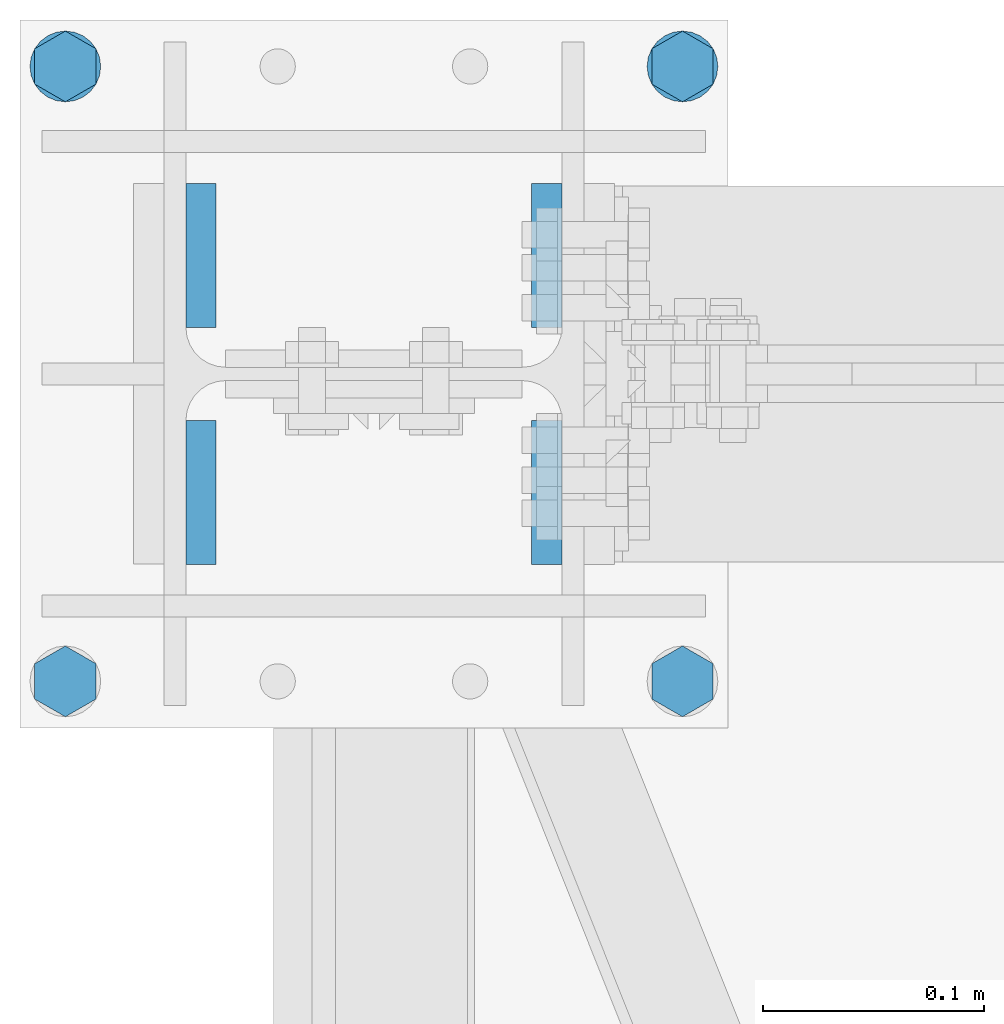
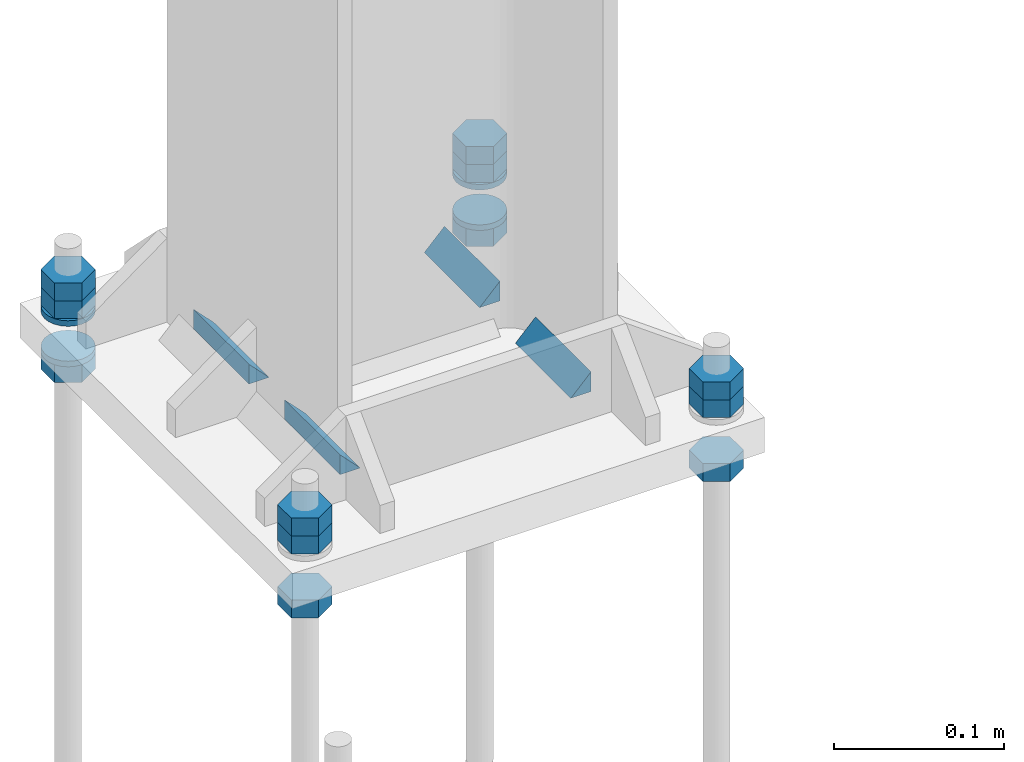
# One storey, part 190 of 251: 16 mechanical fasteners, 8 fasteners.
"""IFC4 building model written with IfcOpenShell, lengths in metres."""

from ifc_helpers import new_model, si_unit, frame, origin_with_axes, place, context, project, spatial, polyline, outline, extrude, type_object, element, save


model = new_model("IFC4")

# Units and contexts
model_context = context("Model", 3, precision=1e-05, world=origin_with_axes())
ifc_project = project(units=[si_unit("LENGTHUNIT", "METRE"), si_unit("AREAUNIT", "SQUARE_METRE"), si_unit("VOLUMEUNIT", "CUBIC_METRE"), si_unit("MASSUNIT", "GRAM", prefix="KILO"), si_unit("TIMEUNIT", "SECOND"), si_unit("PLANEANGLEUNIT", "RADIAN"), si_unit("SOLIDANGLEUNIT", "STERADIAN"), si_unit("THERMODYNAMICTEMPERATUREUNIT", "DEGREE_CELSIUS")], contexts=[model_context])

# Site, building, storey
placement_1 = place(None, origin_with_axes())
site = spatial("IfcSite", under=ifc_project, at=placement_1, Name="Italia", CompositionType="ELEMENT")
building = spatial("IfcBuilding", under=site, at=placement_1, Name="Deposito", CompositionType="ELEMENT")
storey = spatial("IfcBuildingStorey", under=building, at=placement_1, Name="Storey 0", CompositionType="ELEMENT", Elevation=0.0)

# Fasteners
fastener_type_1 = type_object("IfcFastenerType", Name="Collegamenti 0014_-001 0016_-054 0018_-056 0032_-002 0033_-058 0047_-003 0048_-060 0062_-004 0063_-005 0079_-008", PredefinedType="WELD")
placement_2 = place(placement_1, origin_with_axes())
fastener_1_placement = place(placement_2, origin_with_axes())
element("IfcFastener", 1, at=fastener_1_placement, inside=storey, type_object=fastener_type_1, Name="Collegamenti 0014_-001 0016_-054 0018_-056 0032_-002 0033_-058 0047_-003 0048_-060 0062_-004 0063_-005 0079_-008", context=model_context, shape_type="SweptSolid", body=[
    extrude(outline(polyline([(0.0, 0.0), (0.0137482, 0.0141734), (0.0137482, 0.0), (0.0, 0.0)])), frame((5.9787, 20.021, 0.07495), z_axis=(0.0, 1.0, 0.0), x_axis=(-1.0, 0.0, 0.0)), (0.0, 0.0, 1.0), 0.0650997),
])
fastener_type_2 = type_object("IfcFastenerType", Name="Collegamenti 0014_-001 0016_-054 0018_-056 0032_-002 0033_-058 0047_-003 0048_-060 0062_-004 0063_-005 0079_-008", PredefinedType="WELD")
fastener_2_placement = place(placement_2, origin_with_axes())
element("IfcFastener", 2, at=fastener_2_placement, inside=storey, type_object=fastener_type_2, Name="Collegamenti 0014_-001 0016_-054 0018_-056 0032_-002 0033_-058 0047_-003 0048_-060 0062_-004 0063_-005 0079_-008", context=model_context, shape_type="SweptSolid", body=[
    extrude(outline(polyline([(0.0, 0.0), (0.0137482, 0.0141734), (0.0137482, 0.0), (0.0, 0.0)])), frame((6.1213, 20.0861, 0.07495), z_axis=(0.0, -1.0, 0.0), x_axis=(1.0, 0.0, 0.0)), (0.0, 0.0, 1.0), 0.0650997),
])
fastener_type_3 = type_object("IfcFastenerType", Name="Collegamenti 0014_-001 0016_-054 0018_-056 0032_-002 0033_-058 0047_-003 0048_-060 0062_-004 0063_-005 0079_-008", PredefinedType="WELD")
fastener_3_placement = place(placement_2, origin_with_axes())
element("IfcFastener", 3, at=fastener_3_placement, inside=storey, type_object=fastener_type_3, Name="Collegamenti 0014_-001 0016_-054 0018_-056 0032_-002 0033_-058 0047_-003 0048_-060 0062_-004 0063_-005 0079_-008", context=model_context, shape_type="SweptSolid", body=[
    extrude(outline(polyline([(0.0, 0.0), (0.0137482, 0.0141734), (0.0137482, 0.0), (0.0, 0.0)])), frame((6.1213, 19.979, 0.07495), z_axis=(0.0, -1.0, 0.0), x_axis=(1.0, 0.0, 0.0)), (0.0, 0.0, 1.0), 0.0650997),
])
fastener_type_4 = type_object("IfcFastenerType", Name="Collegamenti 0014_-001 0016_-054 0018_-056 0032_-002 0033_-058 0047_-003 0048_-060 0062_-004 0063_-005 0079_-008", PredefinedType="WELD")
fastener_4_placement = place(placement_2, origin_with_axes())
element("IfcFastener", 4, at=fastener_4_placement, inside=storey, type_object=fastener_type_4, Name="Collegamenti 0014_-001 0016_-054 0018_-056 0032_-002 0033_-058 0047_-003 0048_-060 0062_-004 0063_-005 0079_-008", context=model_context, shape_type="SweptSolid", body=[
    extrude(outline(polyline([(0.0, 0.0), (0.0137482, 0.0141734), (0.0137482, 0.0), (0.0, 0.0)])), frame((5.9787, 19.9139, 0.07495), z_axis=(0.0, 1.0, 0.0), x_axis=(-1.0, 0.0, 0.0)), (0.0, 0.0, 1.0), 0.0650997),
])
fastener_type_5 = type_object("IfcFastenerType", Name="Collegamenti 0014_-001 0016_-054 0018_-056 0032_-002 0033_-058 0047_-003 0048_-060 0062_-004 0063_-005 0079_-008", PredefinedType="WELD")
fastener_5_placement = place(placement_2, origin_with_axes())
element("IfcFastener", 5, at=fastener_5_placement, inside=storey, type_object=fastener_type_5, Name="Collegamenti 0014_-001 0016_-054 0018_-056 0032_-002 0033_-058 0047_-003 0048_-060 0062_-004 0063_-005 0079_-008", context=model_context, shape_type="SweptSolid", body=[
    extrude(outline(polyline([(0.0, 0.0), (0.0137482, 0.0141734), (0.0137482, 0.0), (0.0, 0.0)])), frame((5.9787, 20.021, 0.07495), z_axis=(0.0, 1.0, 0.0), x_axis=(-1.0, 0.0, 0.0)), (0.0, 0.0, 1.0), 0.0650997),
])
fastener_type_6 = type_object("IfcFastenerType", Name="Collegamenti 0014_-001 0016_-054 0018_-056 0032_-002 0033_-058 0047_-003 0048_-060 0062_-004 0063_-005 0079_-008", PredefinedType="WELD")
fastener_6_placement = place(placement_2, origin_with_axes())
element("IfcFastener", 6, at=fastener_6_placement, inside=storey, type_object=fastener_type_6, Name="Collegamenti 0014_-001 0016_-054 0018_-056 0032_-002 0033_-058 0047_-003 0048_-060 0062_-004 0063_-005 0079_-008", context=model_context, shape_type="SweptSolid", body=[
    extrude(outline(polyline([(0.0, 0.0), (0.0137482, 0.0141734), (0.0137482, 0.0), (0.0, 0.0)])), frame((6.1213, 20.0861, 0.07495), z_axis=(0.0, -1.0, 0.0), x_axis=(1.0, 0.0, 0.0)), (0.0, 0.0, 1.0), 0.0650997),
])
fastener_type_7 = type_object("IfcFastenerType", Name="Collegamenti 0014_-001 0016_-054 0018_-056 0032_-002 0033_-058 0047_-003 0048_-060 0062_-004 0063_-005 0079_-008", PredefinedType="WELD")
fastener_7_placement = place(placement_2, origin_with_axes())
element("IfcFastener", 7, at=fastener_7_placement, inside=storey, type_object=fastener_type_7, Name="Collegamenti 0014_-001 0016_-054 0018_-056 0032_-002 0033_-058 0047_-003 0048_-060 0062_-004 0063_-005 0079_-008", context=model_context, shape_type="SweptSolid", body=[
    extrude(outline(polyline([(0.0, 0.0), (0.0137482, 0.0141734), (0.0137482, 0.0), (0.0, 0.0)])), frame((6.1213, 19.979, 0.07495), z_axis=(0.0, -1.0, 0.0), x_axis=(1.0, 0.0, 0.0)), (0.0, 0.0, 1.0), 0.0650997),
])
fastener_type_8 = type_object("IfcFastenerType", Name="Collegamenti 0014_-001 0016_-054 0018_-056 0032_-002 0033_-058 0047_-003 0048_-060 0062_-004 0063_-005 0079_-008", PredefinedType="WELD")
fastener_8_placement = place(placement_2, origin_with_axes())
element("IfcFastener", 8, at=fastener_8_placement, inside=storey, type_object=fastener_type_8, Name="Collegamenti 0014_-001 0016_-054 0018_-056 0032_-002 0033_-058 0047_-003 0048_-060 0062_-004 0063_-005 0079_-008", context=model_context, shape_type="SweptSolid", body=[
    extrude(outline(polyline([(0.0, 0.0), (0.0137482, 0.0141734), (0.0137482, 0.0), (0.0, 0.0)])), frame((5.9787, 19.9139, 0.07495), z_axis=(0.0, 1.0, 0.0), x_axis=(-1.0, 0.0, 0.0)), (0.0, 0.0, 1.0), 0.0650997),
])

# Mechanical fasteners
mechanical_fastener_type_1 = type_object("IfcMechanicalFastenerType", Name="Collegamenti 0014_-001 0016_-054 0018_-056 0032_-002 0033_-058 0047_-003 0048_-060 0062_-004 0063_-005 0079_-008", PredefinedType="BOLT")
mechanical_fastener_1_placement = place(placement_2, origin_with_axes())
element("IfcMechanicalFastener", 9, at=mechanical_fastener_1_placement, inside=storey, type_object=mechanical_fastener_type_1, Name="Collegamenti 0014_-001 0016_-054 0018_-056 0032_-002 0033_-058 0047_-003 0048_-060 0062_-004 0063_-005 0079_-008", NominalDiameter=0.0159988, context=model_context, shape_type="SweptSolid", body=[
    extrude(outline(polyline([(0.0, 0.0), (-0.0159988, 0.0), (-0.0240002, 0.0138569), (-0.0159988, 0.0277138), (0.0, 0.0277138), (0.00800133, 0.0138569), (0.0, 0.0)])), frame((6.20336, 19.869, 0.079), z_axis=(0.0, 0.0, 1.0), x_axis=(0.0, 1.0, 0.0)), (0.0, 0.0, 1.0), 0.0128),
])
mechanical_fastener_type_2 = type_object("IfcMechanicalFastenerType", Name="Collegamenti 0014_-001 0016_-054 0018_-056 0032_-002 0033_-058 0047_-003 0048_-060 0062_-004 0063_-005 0079_-008", PredefinedType="BOLT")
mechanical_fastener_2_placement = place(placement_2, origin_with_axes())
element("IfcMechanicalFastener", 10, at=mechanical_fastener_2_placement, inside=storey, type_object=mechanical_fastener_type_2, Name="Collegamenti 0014_-001 0016_-054 0018_-056 0032_-002 0033_-058 0047_-003 0048_-060 0062_-004 0063_-005 0079_-008", NominalDiameter=0.0159988, context=model_context, shape_type="SweptSolid", body=[
    extrude(outline(polyline([(0.0, 0.0), (-0.0159988, 0.0), (-0.0240002, 0.0138569), (-0.0159988, 0.0277138), (0.0, 0.0277138), (0.00800133, 0.0138569), (0.0, 0.0)])), frame((6.20336, 19.869, 0.0918), z_axis=(0.0, 0.0, 1.0), x_axis=(0.0, 1.0, 0.0)), (0.0, 0.0, 1.0), 0.0128),
])
mechanical_fastener_type_3 = type_object("IfcMechanicalFastenerType", Name="Collegamenti 0014_-001 0016_-054 0018_-056 0032_-002 0033_-058 0047_-003 0048_-060 0062_-004 0063_-005 0079_-008", PredefinedType="BOLT")
mechanical_fastener_3_placement = place(placement_2, origin_with_axes())
element("IfcMechanicalFastener", 11, at=mechanical_fastener_3_placement, inside=storey, type_object=mechanical_fastener_type_3, Name="Collegamenti 0014_-001 0016_-054 0018_-056 0032_-002 0033_-058 0047_-003 0048_-060 0062_-004 0063_-005 0079_-008", NominalDiameter=0.0159988, context=model_context, shape_type="SweptSolid", body=[
    extrude(outline(polyline([(0.0, 0.0), (-0.0159988, 0.0), (-0.0240002, 0.0138569), (-0.0159988, 0.0277138), (0.0, 0.0277138), (0.00800133, 0.0138569), (0.0, 0.0)])), frame((6.20336, 19.869, 0.0332), z_axis=(0.0, 0.0, 1.0), x_axis=(0.0, 1.0, 0.0)), (0.0, 0.0, 1.0), 0.0128),
])
mechanical_fastener_type_4 = type_object("IfcMechanicalFastenerType", Name="Collegamenti 0014_-001 0016_-054 0018_-056 0032_-002 0033_-058 0047_-003 0048_-060 0062_-004 0063_-005 0079_-008", PredefinedType="BOLT")
mechanical_fastener_4_placement = place(placement_2, origin_with_axes())
element("IfcMechanicalFastener", 12, at=mechanical_fastener_4_placement, inside=storey, type_object=mechanical_fastener_type_4, Name="Collegamenti 0014_-001 0016_-054 0018_-056 0032_-002 0033_-058 0047_-003 0048_-060 0062_-004 0063_-005 0079_-008", NominalDiameter=0.0159988, context=model_context, shape_type="SweptSolid", body=[
    extrude(outline(polyline([(0.0, 0.0), (-0.0159988, 0.0), (-0.0240002, 0.0138569), (-0.0159988, 0.0277138), (0.0, 0.0277138), (0.00800133, 0.0138569), (0.0, 0.0)])), frame((6.20336, 20.147, 0.079), z_axis=(0.0, 0.0, 1.0), x_axis=(0.0, 1.0, 0.0)), (0.0, 0.0, 1.0), 0.0128),
])
mechanical_fastener_type_5 = type_object("IfcMechanicalFastenerType", Name="Collegamenti 0014_-001 0016_-054 0018_-056 0032_-002 0033_-058 0047_-003 0048_-060 0062_-004 0063_-005 0079_-008", PredefinedType="BOLT")
mechanical_fastener_5_placement = place(placement_2, origin_with_axes())
element("IfcMechanicalFastener", 13, at=mechanical_fastener_5_placement, inside=storey, type_object=mechanical_fastener_type_5, Name="Collegamenti 0014_-001 0016_-054 0018_-056 0032_-002 0033_-058 0047_-003 0048_-060 0062_-004 0063_-005 0079_-008", NominalDiameter=0.0159988, context=model_context, shape_type="SweptSolid", body=[
    extrude(outline(polyline([(0.0, 0.0), (-0.0159988, 0.0), (-0.0240002, 0.0138569), (-0.0159988, 0.0277138), (0.0, 0.0277138), (0.00800133, 0.0138569), (0.0, 0.0)])), frame((6.20336, 20.147, 0.0918), z_axis=(0.0, 0.0, 1.0), x_axis=(0.0, 1.0, 0.0)), (0.0, 0.0, 1.0), 0.0128),
])
mechanical_fastener_type_6 = type_object("IfcMechanicalFastenerType", Name="Collegamenti 0014_-001 0016_-054 0018_-056 0032_-002 0033_-058 0047_-003 0048_-060 0062_-004 0063_-005 0079_-008", PredefinedType="BOLT")
mechanical_fastener_6_placement = place(placement_2, origin_with_axes())
element("IfcMechanicalFastener", 14, at=mechanical_fastener_6_placement, inside=storey, type_object=mechanical_fastener_type_6, Name="Collegamenti 0014_-001 0016_-054 0018_-056 0032_-002 0033_-058 0047_-003 0048_-060 0062_-004 0063_-005 0079_-008", NominalDiameter=0.0159988, context=model_context, shape_type="SweptSolid", body=[
    extrude(outline(polyline([(0.0, 0.0), (-0.0159988, 0.0), (-0.0240002, 0.0138569), (-0.0159988, 0.0277138), (0.0, 0.0277138), (0.00800133, 0.0138569), (0.0, 0.0)])), frame((6.20336, 20.147, 0.0332), z_axis=(0.0, 0.0, 1.0), x_axis=(0.0, 1.0, 0.0)), (0.0, 0.0, 1.0), 0.0128),
])
mechanical_fastener_type_7 = type_object("IfcMechanicalFastenerType", Name="Collegamenti 0014_-001 0016_-054 0018_-056 0032_-002 0033_-058 0047_-003 0048_-060 0062_-004 0063_-005 0079_-008", PredefinedType="BOLT")
mechanical_fastener_7_placement = place(placement_2, origin_with_axes())
element("IfcMechanicalFastener", 15, at=mechanical_fastener_7_placement, inside=storey, type_object=mechanical_fastener_type_7, Name="Collegamenti 0014_-001 0016_-054 0018_-056 0032_-002 0033_-058 0047_-003 0048_-060 0062_-004 0063_-005 0079_-008", NominalDiameter=0.032, context=model_context, shape_type="SweptSolid", body=[
    extrude(outline(polyline([(0.0, 0.0), (-0.000545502, -0.00414133), (-0.00214386, -0.0079999), (-0.00468636, -0.0113139), (-0.00800133, -0.0138564), (-0.0118599, -0.0154548), (-0.0160007, -0.0159998), (-0.0201416, -0.0154548), (-0.0240002, -0.0138564), (-0.0273151, -0.0113139), (-0.0298576, -0.0079999), (-0.031456, -0.00414133), (-0.0320015, 0.0), (-0.031456, 0.00414133), (-0.0298576, 0.0079999), (-0.0273151, 0.0113139), (-0.0240002, 0.0138564), (-0.0201416, 0.0154548), (-0.0160007, 0.0159998), (-0.0118599, 0.0154548), (-0.00800133, 0.0138564), (-0.00468636, 0.0113139), (-0.00214386, 0.0079999), (-0.000545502, 0.00414133), (0.0, 0.0)])), frame((6.1895, 20.155, 0.075), z_axis=(0.0, 0.0, 1.0), x_axis=(0.0, 1.0, 0.0)), (0.0, 0.0, 1.0), 0.00399999),
])
mechanical_fastener_type_8 = type_object("IfcMechanicalFastenerType", Name="Collegamenti 0014_-001 0016_-054 0018_-056 0032_-002 0033_-058 0047_-003 0048_-060 0062_-004 0063_-005 0079_-008", PredefinedType="BOLT")
mechanical_fastener_8_placement = place(placement_2, origin_with_axes())
element("IfcMechanicalFastener", 16, at=mechanical_fastener_8_placement, inside=storey, type_object=mechanical_fastener_type_8, Name="Collegamenti 0014_-001 0016_-054 0018_-056 0032_-002 0033_-058 0047_-003 0048_-060 0062_-004 0063_-005 0079_-008", NominalDiameter=0.032, context=model_context, shape_type="SweptSolid", body=[
    extrude(outline(polyline([(0.0, 0.0), (-0.000545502, -0.00414133), (-0.00214386, -0.0079999), (-0.00468636, -0.0113139), (-0.00800133, -0.0138564), (-0.0118599, -0.0154548), (-0.0160007, -0.0159998), (-0.0201416, -0.0154548), (-0.0240002, -0.0138564), (-0.0273151, -0.0113139), (-0.0298576, -0.0079999), (-0.031456, -0.00414133), (-0.0320015, 0.0), (-0.031456, 0.00414133), (-0.0298576, 0.0079999), (-0.0273151, 0.0113139), (-0.0240002, 0.0138564), (-0.0201416, 0.0154548), (-0.0160007, 0.0159998), (-0.0118599, 0.0154548), (-0.00800133, 0.0138564), (-0.00468636, 0.0113139), (-0.00214386, 0.0079999), (-0.000545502, 0.00414133), (0.0, 0.0)])), frame((6.1895, 20.155, 0.046), z_axis=(0.0, 0.0, 1.0), x_axis=(0.0, 1.0, 0.0)), (0.0, 0.0, 1.0), 0.004),
])
mechanical_fastener_type_9 = type_object("IfcMechanicalFastenerType", Name="Collegamenti 0014_-001 0016_-054 0018_-056 0032_-002 0033_-058 0047_-003 0048_-060 0062_-004 0063_-005 0079_-008", PredefinedType="BOLT")
mechanical_fastener_9_placement = place(placement_2, origin_with_axes())
element("IfcMechanicalFastener", 17, at=mechanical_fastener_9_placement, inside=storey, type_object=mechanical_fastener_type_9, Name="Collegamenti 0014_-001 0016_-054 0018_-056 0032_-002 0033_-058 0047_-003 0048_-060 0062_-004 0063_-005 0079_-008", NominalDiameter=0.0159988, context=model_context, shape_type="SweptSolid", body=[
    extrude(outline(polyline([(0.0, 0.0), (-0.0159988, 0.0), (-0.0240002, 0.0138569), (-0.0159988, 0.0277138), (0.0, 0.0277138), (0.00800133, 0.0138569), (0.0, 0.0)])), frame((5.92436, 19.869, 0.079), z_axis=(0.0, 0.0, 1.0), x_axis=(0.0, 1.0, 0.0)), (0.0, 0.0, 1.0), 0.0128),
])
mechanical_fastener_type_10 = type_object("IfcMechanicalFastenerType", Name="Collegamenti 0014_-001 0016_-054 0018_-056 0032_-002 0033_-058 0047_-003 0048_-060 0062_-004 0063_-005 0079_-008", PredefinedType="BOLT")
mechanical_fastener_10_placement = place(placement_2, origin_with_axes())
element("IfcMechanicalFastener", 18, at=mechanical_fastener_10_placement, inside=storey, type_object=mechanical_fastener_type_10, Name="Collegamenti 0014_-001 0016_-054 0018_-056 0032_-002 0033_-058 0047_-003 0048_-060 0062_-004 0063_-005 0079_-008", NominalDiameter=0.0159988, context=model_context, shape_type="SweptSolid", body=[
    extrude(outline(polyline([(0.0, 0.0), (-0.0159988, 0.0), (-0.0240002, 0.0138569), (-0.0159988, 0.0277138), (0.0, 0.0277138), (0.00800133, 0.0138569), (0.0, 0.0)])), frame((5.92436, 19.869, 0.0918), z_axis=(0.0, 0.0, 1.0), x_axis=(0.0, 1.0, 0.0)), (0.0, 0.0, 1.0), 0.0128),
])
mechanical_fastener_type_11 = type_object("IfcMechanicalFastenerType", Name="Collegamenti 0014_-001 0016_-054 0018_-056 0032_-002 0033_-058 0047_-003 0048_-060 0062_-004 0063_-005 0079_-008", PredefinedType="BOLT")
mechanical_fastener_11_placement = place(placement_2, origin_with_axes())
element("IfcMechanicalFastener", 19, at=mechanical_fastener_11_placement, inside=storey, type_object=mechanical_fastener_type_11, Name="Collegamenti 0014_-001 0016_-054 0018_-056 0032_-002 0033_-058 0047_-003 0048_-060 0062_-004 0063_-005 0079_-008", NominalDiameter=0.0159988, context=model_context, shape_type="SweptSolid", body=[
    extrude(outline(polyline([(0.0, 0.0), (-0.0159988, 0.0), (-0.0240002, 0.0138569), (-0.0159988, 0.0277138), (0.0, 0.0277138), (0.00800133, 0.0138569), (0.0, 0.0)])), frame((5.92436, 19.869, 0.0332), z_axis=(0.0, 0.0, 1.0), x_axis=(0.0, 1.0, 0.0)), (0.0, 0.0, 1.0), 0.0128),
])
mechanical_fastener_type_12 = type_object("IfcMechanicalFastenerType", Name="Collegamenti 0014_-001 0016_-054 0018_-056 0032_-002 0033_-058 0047_-003 0048_-060 0062_-004 0063_-005 0079_-008", PredefinedType="BOLT")
mechanical_fastener_12_placement = place(placement_2, origin_with_axes())
element("IfcMechanicalFastener", 20, at=mechanical_fastener_12_placement, inside=storey, type_object=mechanical_fastener_type_12, Name="Collegamenti 0014_-001 0016_-054 0018_-056 0032_-002 0033_-058 0047_-003 0048_-060 0062_-004 0063_-005 0079_-008", NominalDiameter=0.0159988, context=model_context, shape_type="SweptSolid", body=[
    extrude(outline(polyline([(0.0, 0.0), (-0.0159988, 0.0), (-0.0240002, 0.0138569), (-0.0159988, 0.0277138), (0.0, 0.0277138), (0.00800133, 0.0138569), (0.0, 0.0)])), frame((5.92436, 20.147, 0.079), z_axis=(0.0, 0.0, 1.0), x_axis=(0.0, 1.0, 0.0)), (0.0, 0.0, 1.0), 0.0128),
])
mechanical_fastener_type_13 = type_object("IfcMechanicalFastenerType", Name="Collegamenti 0014_-001 0016_-054 0018_-056 0032_-002 0033_-058 0047_-003 0048_-060 0062_-004 0063_-005 0079_-008", PredefinedType="BOLT")
mechanical_fastener_13_placement = place(placement_2, origin_with_axes())
element("IfcMechanicalFastener", 21, at=mechanical_fastener_13_placement, inside=storey, type_object=mechanical_fastener_type_13, Name="Collegamenti 0014_-001 0016_-054 0018_-056 0032_-002 0033_-058 0047_-003 0048_-060 0062_-004 0063_-005 0079_-008", NominalDiameter=0.0159988, context=model_context, shape_type="SweptSolid", body=[
    extrude(outline(polyline([(0.0, 0.0), (-0.0159988, 0.0), (-0.0240002, 0.0138569), (-0.0159988, 0.0277138), (0.0, 0.0277138), (0.00800133, 0.0138569), (0.0, 0.0)])), frame((5.92436, 20.147, 0.0918), z_axis=(0.0, 0.0, 1.0), x_axis=(0.0, 1.0, 0.0)), (0.0, 0.0, 1.0), 0.0128),
])
mechanical_fastener_type_14 = type_object("IfcMechanicalFastenerType", Name="Collegamenti 0014_-001 0016_-054 0018_-056 0032_-002 0033_-058 0047_-003 0048_-060 0062_-004 0063_-005 0079_-008", PredefinedType="BOLT")
mechanical_fastener_14_placement = place(placement_2, origin_with_axes())
element("IfcMechanicalFastener", 22, at=mechanical_fastener_14_placement, inside=storey, type_object=mechanical_fastener_type_14, Name="Collegamenti 0014_-001 0016_-054 0018_-056 0032_-002 0033_-058 0047_-003 0048_-060 0062_-004 0063_-005 0079_-008", NominalDiameter=0.0159988, context=model_context, shape_type="SweptSolid", body=[
    extrude(outline(polyline([(0.0, 0.0), (-0.0159988, 0.0), (-0.0240002, 0.0138569), (-0.0159988, 0.0277138), (0.0, 0.0277138), (0.00800133, 0.0138569), (0.0, 0.0)])), frame((5.92436, 20.147, 0.0332), z_axis=(0.0, 0.0, 1.0), x_axis=(0.0, 1.0, 0.0)), (0.0, 0.0, 1.0), 0.0128),
])
mechanical_fastener_type_15 = type_object("IfcMechanicalFastenerType", Name="Collegamenti 0014_-001 0016_-054 0018_-056 0032_-002 0033_-058 0047_-003 0048_-060 0062_-004 0063_-005 0079_-008", PredefinedType="BOLT")
mechanical_fastener_15_placement = place(placement_2, origin_with_axes())
element("IfcMechanicalFastener", 23, at=mechanical_fastener_15_placement, inside=storey, type_object=mechanical_fastener_type_15, Name="Collegamenti 0014_-001 0016_-054 0018_-056 0032_-002 0033_-058 0047_-003 0048_-060 0062_-004 0063_-005 0079_-008", NominalDiameter=0.032, context=model_context, shape_type="SweptSolid", body=[
    extrude(outline(polyline([(0.0, 0.0), (-0.000545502, -0.00414133), (-0.00214386, -0.0079999), (-0.00468636, -0.0113139), (-0.00800133, -0.0138564), (-0.0118599, -0.0154548), (-0.0160007, -0.0159998), (-0.0201416, -0.0154548), (-0.0240002, -0.0138564), (-0.0273151, -0.0113139), (-0.0298576, -0.0079999), (-0.031456, -0.00414133), (-0.0320015, 0.0), (-0.031456, 0.00414133), (-0.0298576, 0.0079999), (-0.0273151, 0.0113139), (-0.0240002, 0.0138564), (-0.0201416, 0.0154548), (-0.0160007, 0.0159998), (-0.0118599, 0.0154548), (-0.00800133, 0.0138564), (-0.00468636, 0.0113139), (-0.00214386, 0.0079999), (-0.000545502, 0.00414133), (0.0, 0.0)])), frame((5.9105, 20.155, 0.075), z_axis=(0.0, 0.0, 1.0), x_axis=(0.0, 1.0, 0.0)), (0.0, 0.0, 1.0), 0.00399999),
])
mechanical_fastener_type_16 = type_object("IfcMechanicalFastenerType", Name="Collegamenti 0014_-001 0016_-054 0018_-056 0032_-002 0033_-058 0047_-003 0048_-060 0062_-004 0063_-005 0079_-008", PredefinedType="BOLT")
mechanical_fastener_16_placement = place(placement_2, origin_with_axes())
element("IfcMechanicalFastener", 24, at=mechanical_fastener_16_placement, inside=storey, type_object=mechanical_fastener_type_16, Name="Collegamenti 0014_-001 0016_-054 0018_-056 0032_-002 0033_-058 0047_-003 0048_-060 0062_-004 0063_-005 0079_-008", NominalDiameter=0.032, context=model_context, shape_type="SweptSolid", body=[
    extrude(outline(polyline([(0.0, 0.0), (-0.000545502, -0.00414133), (-0.00214386, -0.0079999), (-0.00468636, -0.0113139), (-0.00800133, -0.0138564), (-0.0118599, -0.0154548), (-0.0160007, -0.0159998), (-0.0201416, -0.0154548), (-0.0240002, -0.0138564), (-0.0273151, -0.0113139), (-0.0298576, -0.0079999), (-0.031456, -0.00414133), (-0.0320015, 0.0), (-0.031456, 0.00414133), (-0.0298576, 0.0079999), (-0.0273151, 0.0113139), (-0.0240002, 0.0138564), (-0.0201416, 0.0154548), (-0.0160007, 0.0159998), (-0.0118599, 0.0154548), (-0.00800133, 0.0138564), (-0.00468636, 0.0113139), (-0.00214386, 0.0079999), (-0.000545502, 0.00414133), (0.0, 0.0)])), frame((5.9105, 20.155, 0.046), z_axis=(0.0, 0.0, 1.0), x_axis=(0.0, 1.0, 0.0)), (0.0, 0.0, 1.0), 0.004),
])

save(model, "model.ifc")
